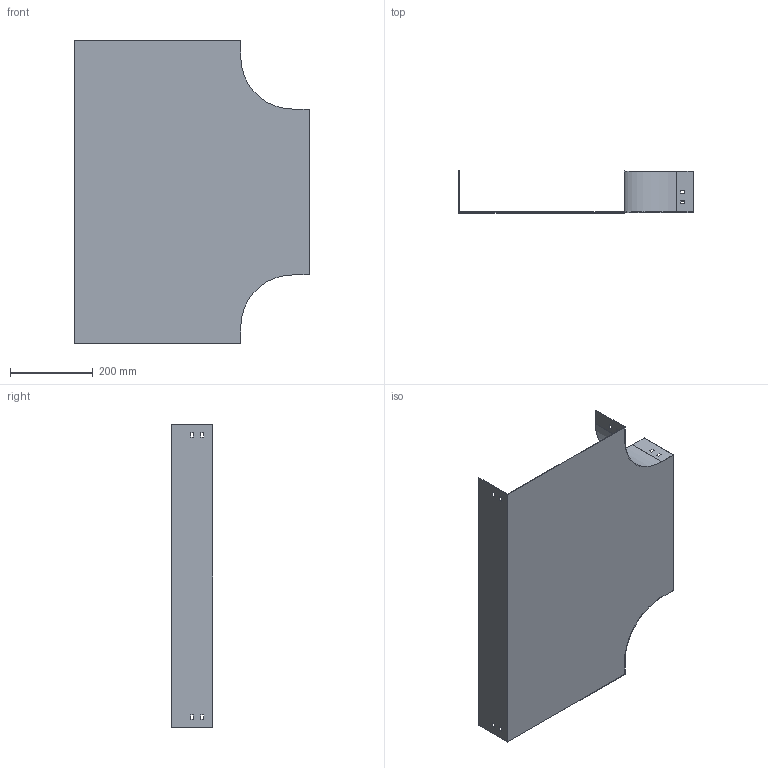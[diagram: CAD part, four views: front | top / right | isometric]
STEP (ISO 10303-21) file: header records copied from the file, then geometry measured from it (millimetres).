
FILE_DESCRIPTION (( 'STEP AP214' ), '1' );
FILE_NAME ('PT_401.step', '2025-07-16T09:23:59', ( '' ), ( '' ), 'SwSTEP 2.0', 'SolidWorks 2023', '' );
FILE_SCHEMA (( 'AUTOMOTIVE_DESIGN' ));
Length unit declared in the file: millimetre
Products named in the file (1): PT_401
Bounding box: 565 x 100 x 730 mm (x, y, z)
Volume: 735666.4 mm3; surface area: 986111.1 mm2
Topology: 1 solids, 1 shells, 70 faces, 204 edges, 136 vertices
Faces by surface type: plane 66, cylinder 4
Entity records: 2347 total; most frequent: CARTESIAN_POINT 411, ORIENTED_EDGE 408, DIRECTION 354, EDGE_CURVE 204, LINE 196, VECTOR 196, VERTEX_POINT 136, EDGE_LOOP 94
